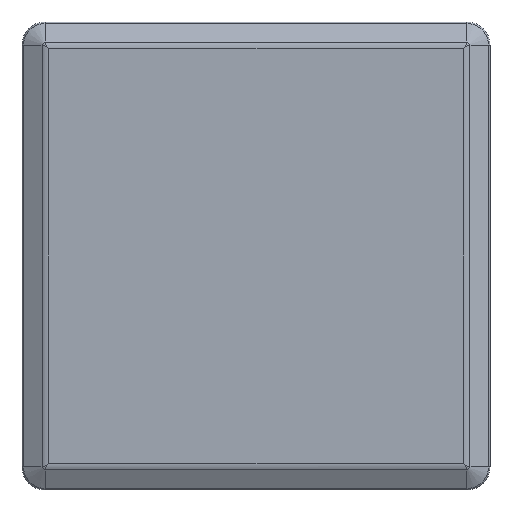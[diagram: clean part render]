
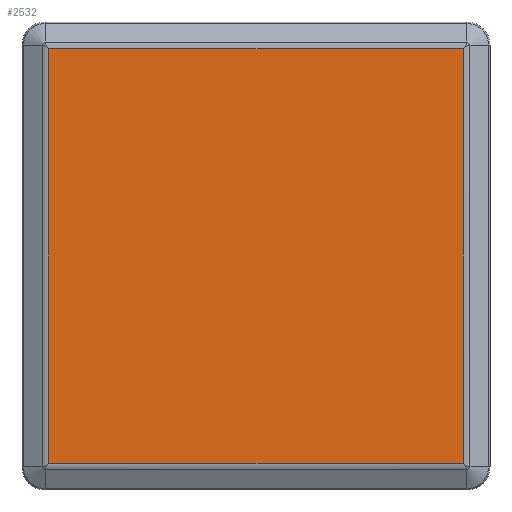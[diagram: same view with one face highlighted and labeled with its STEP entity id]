
A CAD part, front view. The second image highlights one B-rep face of the part: STEP entity #2532.
In plain terms, the highlighted planar face has unit normal (0, -1, 0).
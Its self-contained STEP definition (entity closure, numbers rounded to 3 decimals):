
#162 = LINE ( 'NONE', #6169, #2266 ) ;
#272 = EDGE_CURVE ( 'NONE', #8078, #8582, #1664, .T. ) ;
#316 = LINE ( 'NONE', #1343, #6067 ) ;
#427 = CARTESIAN_POINT ( 'NONE',  ( -31.464, 0., 32. ) ) ;
#708 = DIRECTION ( 'NONE',  ( 1., 0., 0. ) ) ;
#1060 = CARTESIAN_POINT ( 'NONE',  ( -32., 0., 31.464 ) ) ;
#1143 = EDGE_LOOP ( 'NONE', ( #5632, #6609, #4256, #4601 ) ) ;
#1211 = DIRECTION ( 'NONE',  ( 0., 0., -1. ) ) ;
#1343 = CARTESIAN_POINT ( 'NONE',  ( 31.464, 0., 32. ) ) ;
#1389 = CARTESIAN_POINT ( 'NONE',  ( -31.464, 0., 31.464 ) ) ;
#1664 = LINE ( 'NONE', #1060, #5351 ) ;
#1853 = DIRECTION ( 'NONE',  ( -1., 0., 0. ) ) ;
#2266 = VECTOR ( 'NONE', #708, 1000. ) ;
#2330 = VERTEX_POINT ( 'NONE', #6358 ) ;
#2489 = EDGE_CURVE ( 'NONE', #8582, #2330, #8883, .T. ) ;
#2532 = ADVANCED_FACE ( 'NONE', ( #8397 ), #2823, .T. ) ;
#2823 = PLANE ( 'NONE',  #4499 ) ;
#2909 = DIRECTION ( 'NONE',  ( 0., 0., 1. ) ) ;
#3608 = DIRECTION ( 'NONE',  ( 0., 0., -1. ) ) ;
#4085 = CARTESIAN_POINT ( 'NONE',  ( 31.464, 0., -31.464 ) ) ;
#4256 = ORIENTED_EDGE ( 'NONE', *, *, #7831, .T. ) ;
#4499 = AXIS2_PLACEMENT_3D ( 'NONE', #5918, #8285, #3608 ) ;
#4601 = ORIENTED_EDGE ( 'NONE', *, *, #272, .T. ) ;
#4726 = VECTOR ( 'NONE', #1211, 1000. ) ;
#5351 = VECTOR ( 'NONE', #1853, 1000. ) ;
#5632 = ORIENTED_EDGE ( 'NONE', *, *, #2489, .T. ) ;
#5918 = CARTESIAN_POINT ( 'NONE',  ( -32., 0., 32. ) ) ;
#6067 = VECTOR ( 'NONE', #2909, 1000. ) ;
#6169 = CARTESIAN_POINT ( 'NONE',  ( -32., 0., -31.464 ) ) ;
#6358 = CARTESIAN_POINT ( 'NONE',  ( -31.464, 0., -31.464 ) ) ;
#6609 = ORIENTED_EDGE ( 'NONE', *, *, #9254, .T. ) ;
#7110 = CARTESIAN_POINT ( 'NONE',  ( 31.464, 0., 31.464 ) ) ;
#7506 = VERTEX_POINT ( 'NONE', #4085 ) ;
#7831 = EDGE_CURVE ( 'NONE', #7506, #8078, #316, .T. ) ;
#8078 = VERTEX_POINT ( 'NONE', #7110 ) ;
#8285 = DIRECTION ( 'NONE',  ( 0., -1., 0. ) ) ;
#8397 = FACE_OUTER_BOUND ( 'NONE', #1143, .T. ) ;
#8582 = VERTEX_POINT ( 'NONE', #1389 ) ;
#8883 = LINE ( 'NONE', #427, #4726 ) ;
#9254 = EDGE_CURVE ( 'NONE', #2330, #7506, #162, .T. ) ;
